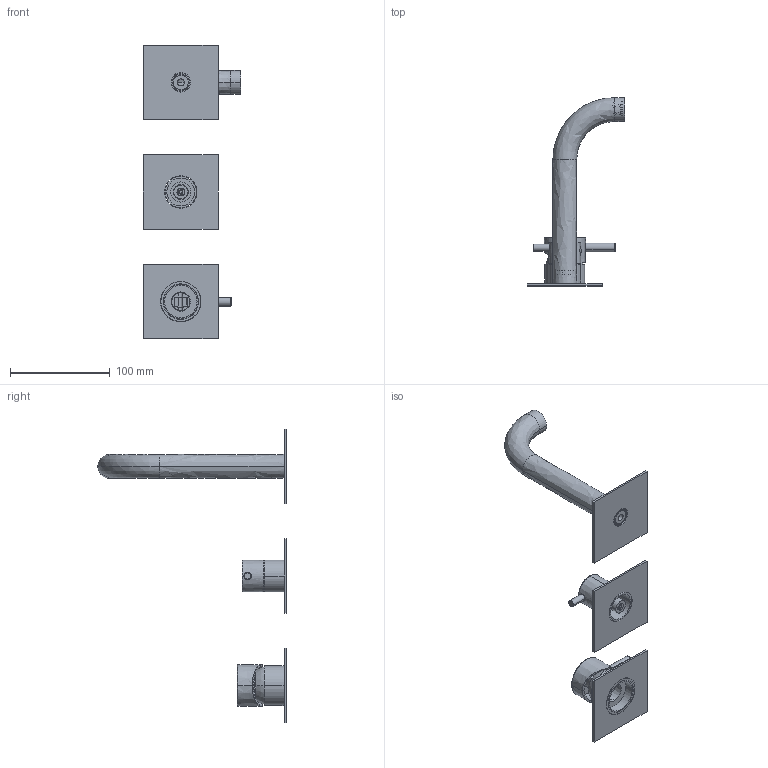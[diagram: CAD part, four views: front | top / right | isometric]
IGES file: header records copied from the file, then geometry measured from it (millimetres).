
Start section:  PTC IGES file: 3d_sw0001.igs
Global section: file name: 3d_sw0001.igs; native system: Creo Parametric by PTC Inc.; preprocessor: 2022014; author: volponeff; organization: Unknown; date: 20241001.150514; units: millimetre
Bounding box: 97.5 x 189 x 295 mm (x, y, z)
Surface area: 120638.4 mm2 (no closed solid volume)
Topology: 0 solids, 0 shells, 1206 faces, 6668 edges, 6644 vertices
Faces by surface type: revolution 714, bspline 492
